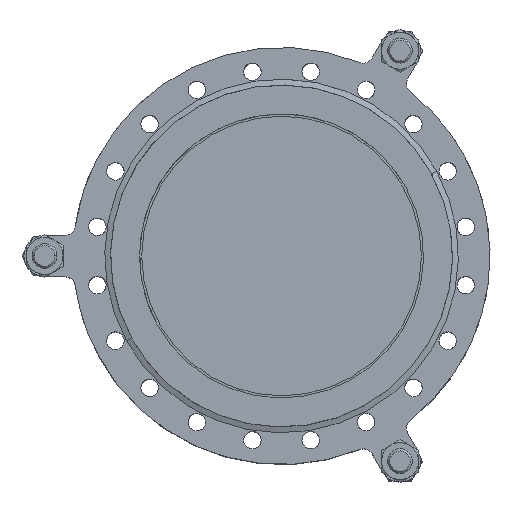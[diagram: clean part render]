
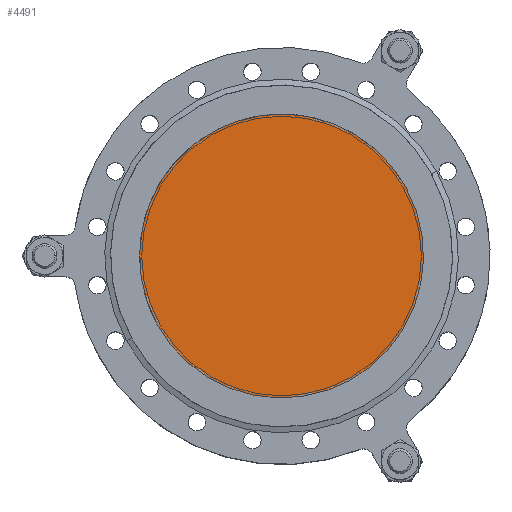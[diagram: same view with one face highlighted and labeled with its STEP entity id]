
A CAD part, top view. The second image highlights one B-rep face of the part: STEP entity #4491.
In plain terms, the highlighted planar face has unit normal (0, 0, -1).
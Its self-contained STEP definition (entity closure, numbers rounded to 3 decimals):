
#4275=CARTESIAN_POINT('Vertex',(-61.343,-33.512,30.)) ;
#4278=CARTESIAN_POINT('Axis2P3D Location',(0.,0.,30.)) ;
#4282=CARTESIAN_POINT('Vertex',(61.343,33.512,30.)) ;
#4302=CARTESIAN_POINT('Axis2P3D Location',(0.,0.,30.)) ;
#4464=CARTESIAN_POINT('Axis2P3D Location',(-68.9,0.,30.)) ;
#4473=CARTESIAN_POINT('Axis2P3D Location',(0.,0.,30.)) ;
#4477=CARTESIAN_POINT('Vertex',(69.85,0.,30.)) ;
#4479=CARTESIAN_POINT('Vertex',(-69.85,0.,30.)) ;
#4482=CARTESIAN_POINT('Axis2P3D Location',(0.,0.,30.)) ;
#4279=DIRECTION('Axis2P3D Direction',(0.,0.,1.)) ;
#4303=DIRECTION('Axis2P3D Direction',(0.,0.,1.)) ;
#4465=DIRECTION('Axis2P3D Direction',(0.,0.,1.)) ;
#4466=DIRECTION('Axis2P3D XDirection',(-1.,0.,0.)) ;
#4474=DIRECTION('Axis2P3D Direction',(0.,0.,1.)) ;
#4483=DIRECTION('Axis2P3D Direction',(0.,0.,1.)) ;
#4280=AXIS2_PLACEMENT_3D('Circle Axis2P3D',#4278,#4279,$) ;
#4304=AXIS2_PLACEMENT_3D('Circle Axis2P3D',#4302,#4303,$) ;
#4467=AXIS2_PLACEMENT_3D('Plane Axis2P3D',#4464,#4465,#4466) ;
#4475=AXIS2_PLACEMENT_3D('Circle Axis2P3D',#4473,#4474,$) ;
#4484=AXIS2_PLACEMENT_3D('Circle Axis2P3D',#4482,#4483,$) ;
#4470=ORIENTED_EDGE('',*,*,#4284,.F.) ;
#4471=ORIENTED_EDGE('',*,*,#4306,.F.) ;
#4488=ORIENTED_EDGE('',*,*,#4481,.T.) ;
#4489=ORIENTED_EDGE('',*,*,#4486,.T.) ;
#4490=FACE_BOUND('',#4487,.T.) ;
#4491=ADVANCED_FACE('Hauptk\X2\00F6\X0\rper',(#4472,#4490),#4468,.F.) ;
#4281=CIRCLE('generated circle',#4280,69.9) ;
#4305=CIRCLE('generated circle',#4304,69.9) ;
#4476=CIRCLE('generated circle',#4475,69.85) ;
#4485=CIRCLE('generated circle',#4484,69.85) ;
#4284=EDGE_CURVE('',#4276,#4283,#4281,.T.) ;
#4306=EDGE_CURVE('',#4283,#4276,#4305,.T.) ;
#4481=EDGE_CURVE('',#4478,#4480,#4476,.T.) ;
#4486=EDGE_CURVE('',#4480,#4478,#4485,.T.) ;
#4469=EDGE_LOOP('',(#4470,#4471)) ;
#4487=EDGE_LOOP('',(#4488,#4489)) ;
#4472=FACE_OUTER_BOUND('',#4469,.T.) ;
#4468=PLANE('',#4467) ;
#4276=VERTEX_POINT('',#4275) ;
#4283=VERTEX_POINT('',#4282) ;
#4478=VERTEX_POINT('',#4477) ;
#4480=VERTEX_POINT('',#4479) ;
